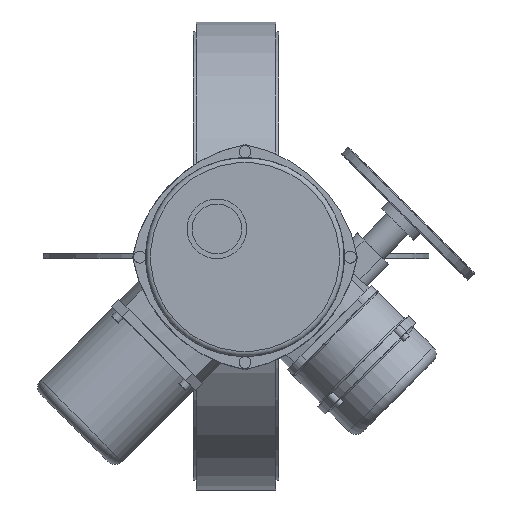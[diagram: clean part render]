
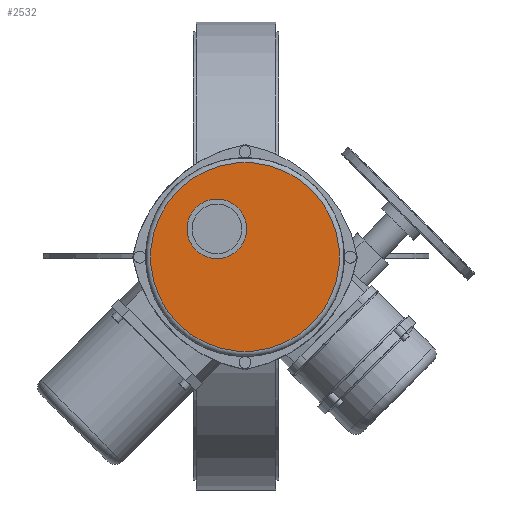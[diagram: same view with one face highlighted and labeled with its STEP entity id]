
A CAD part, top view. The second image highlights one B-rep face of the part: STEP entity #2532.
In plain terms, the highlighted planar face has unit normal (0, 0, 1).
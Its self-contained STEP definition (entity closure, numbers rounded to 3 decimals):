
#2532=ADVANCED_FACE('',(#5607,#5609),#5611,.T.);
#5607=FACE_BOUND('',#5608,.T.);
#5608=EDGE_LOOP('',(#7151));
#5609=FACE_BOUND('',#5610,.T.);
#5610=EDGE_LOOP('',(#7152));
#5611=PLANE('',#5612);
#5612=AXIS2_PLACEMENT_3D('',#5613,#5614,#5615);
#5613=CARTESIAN_POINT('',(9.192,-2.121,627.));
#5614=DIRECTION('',(0.,0.,1.));
#5615=DIRECTION('',(0.707,0.707,0.));
#7151=ORIENTED_EDGE('',*,*,#7881,.T.);
#7152=ORIENTED_EDGE('',*,*,#7944,.F.);
#7881=EDGE_CURVE('',#8969,#8969,#8970,.T.);
#7944=EDGE_CURVE('',#9071,#9071,#9072,.T.);
#8969=VERTEX_POINT('',#13696);
#8970=CIRCLE('',#13697,95.);
#9071=VERTEX_POINT('',#13957);
#9072=CIRCLE('',#13958,30.);
#13696=CARTESIAN_POINT('',(76.368,65.054,627.));
#13697=AXIS2_PLACEMENT_3D('',#13698,#13699,#13700);
#13698=CARTESIAN_POINT('',(9.192,-2.121,627.));
#13699=DIRECTION('',(0.,0.,1.));
#13700=DIRECTION('',(0.707,0.707,0.));
#13957=CARTESIAN_POINT('',(2.121,47.376,627.));
#13958=AXIS2_PLACEMENT_3D('',#13959,#13960,#13961);
#13959=CARTESIAN_POINT('',(-19.092,26.163,627.));
#13960=DIRECTION('',(0.,0.,1.));
#13961=DIRECTION('',(0.707,0.707,0.));
